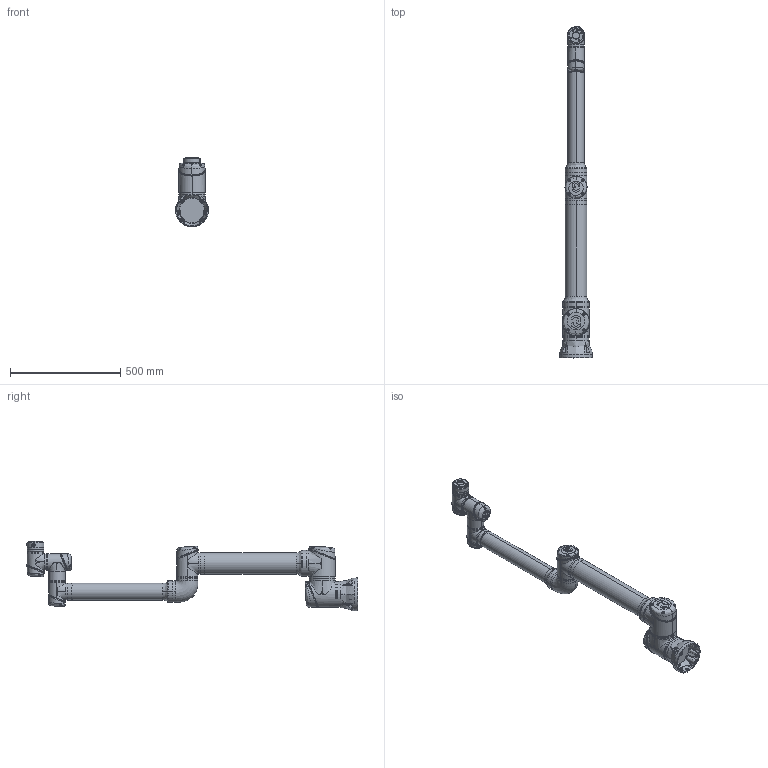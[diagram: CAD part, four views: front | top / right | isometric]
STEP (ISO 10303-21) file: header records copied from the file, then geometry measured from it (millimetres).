
FILE_DESCRIPTION (( 'STEP AP214' ), '1' );
FILE_NAME ('CS_±¾ÌåCS64-13_V1.STEP', '2026-04-29T03:14:03', ( '' ), ( '' ), 'SwSTEP 2.0', 'SolidWorks 2020', '' );
FILE_SCHEMA (( 'AUTOMOTIVE_DESIGN' ));
Length unit declared in the file: millimetre
Products named in the file (8): CS64-13-Link2; CS64-13-Base; CS64-13-J1; CS64-13-Link3; CS64-13-J5; CS64-13-J6; CS_掛极CS64-13_V1; CS64-13-Flange
Assembly tree (7 placements, depth 2):
  CS_掛极CS64-13_V1
    CS64-13-Base
    CS64-13-Flange
    CS64-13-J1
    CS64-13-Link2
    CS64-13-J5
    CS64-13-J6
    CS64-13-Link3
Bounding box: 149.69 x 1505.83 x 317.21 mm (x, y, z)
Volume: 14178902 mm3; surface area: 1010435.5 mm2
Topology: 69 solids, 74 shells, 4830 faces, 11710 edges, 7069 vertices
Faces by surface type: bspline 2334, plane 1115, cylinder 764, cone 328, sphere 162, torus 127
Entity records: 687101 total; most frequent: CARTESIAN_POINT 587693, ORIENTED_EDGE 22992, DIRECTION 14228, EDGE_CURVE 11496, VERTEX_POINT 7042, AXIS2_PLACEMENT_3D 5987, B_SPLINE_CURVE_WITH_KNOTS 5262, EDGE_LOOP 5132
